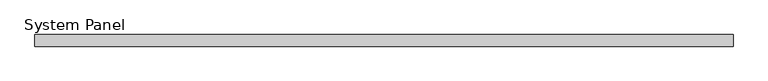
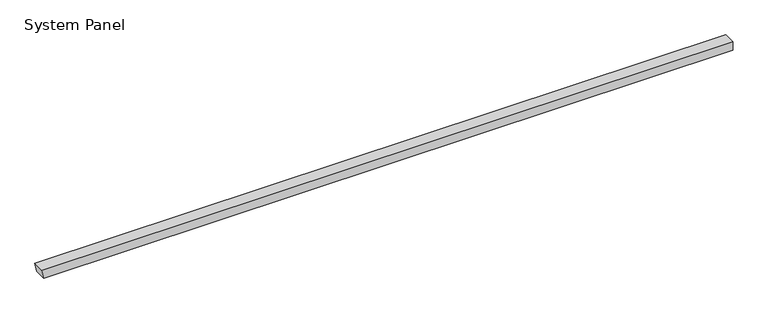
"""IFC4 building model written with IfcOpenShell, lengths in millimetres: plate geometry, System Panel : Equitilt 100mm Horizontal - Plain RHEA - EPS-FR."""

import ifcopenshell
import ifcopenshell.guid

model = None  # the IFC model being written
_history = None  # IfcOwnerHistory: only IFC2X3 demands one
_inside = {}  # id of a spatial element -> (the spatial element, [elements in it])
_under = {}  # id of a project, library or spatial element -> (it, [spatial elements below it])
_declared = {}  # id of a project -> (the project, [libraries it declares])
_typed = {}  # id of a type object -> (the type object, [elements of that type])
_made_of = {}  # id of a material, layer set ... -> (it, [elements and type objects made of it])


def new_model(schema):
    """Start an empty IFC model of exactly this schema.

    Asked for "IFC4X3", IfcOpenShell would pick the latest addendum, in which some entities
    have other attributes; the version numbers below select the first issue.
    IFC2X3 requires an IfcOwnerHistory on every rooted entity: one is made here for all.
    """
    global model, _history
    if schema == "IFC4X3":
        model = ifcopenshell.file(schema_version=(4, 3, 0, 0))
    else:
        model = ifcopenshell.file(schema=schema)
    _inside.clear()
    _under.clear()
    _declared.clear()
    _typed.clear()
    _made_of.clear()
    _history = None
    if model.schema == "IFC2X3":
        org = make("IfcOrganization", Name="unknown")
        user = make(
            "IfcPersonAndOrganization",
            ThePerson=make("IfcPerson", FamilyName="unknown"),
            TheOrganization=org,
        )
        app = make(
            "IfcApplication",
            ApplicationDeveloper=org,
            Version="unknown",
            ApplicationFullName="unknown",
            ApplicationIdentifier="unknown",
        )
        _history = make(
            "IfcOwnerHistory",
            OwningUser=user,
            OwningApplication=app,
            ChangeAction="ADDED",
            CreationDate=0,
        )
    return model


def make(cls, **values):
    """One entity of the class cls with the attributes given. An attribute that is None is left unset."""
    return model.create_entity(
        cls, **{name: value for name, value in values.items() if value is not None}
    )


def rooted(cls, **values):
    """An entity with a GlobalId (a new one), such as an element, a storey or a relation."""
    return make(cls, GlobalId=ifcopenshell.guid.new(), OwnerHistory=_history, **values)


def si_unit(unit_type, name, prefix=None):
    """IfcSIUnit, for example si_unit("LENGTHUNIT", "METRE", prefix="MILLI")."""
    return make("IfcSIUnit", UnitType=unit_type, Prefix=prefix, Name=name)


def assignment(units):
    """IfcUnitAssignment: the units of a project."""
    return None if units is None else make("IfcUnitAssignment", Units=units)


def point(xyz):
    """IfcCartesianPoint."""
    return None if xyz is None else make("IfcCartesianPoint", Coordinates=xyz)


def direction(xyz):
    """IfcDirection."""
    return None if xyz is None else make("IfcDirection", DirectionRatios=xyz)


def frame(location, z_axis=None, x_axis=None):
    """IfcAxis2Placement3D, a coordinate frame: its origin and axes. An axis left out is left unset."""
    return make(
        "IfcAxis2Placement3D",
        Location=point(location),
        Axis=direction(z_axis),
        RefDirection=direction(x_axis),
    )


def origin():
    """The frame at (0, 0, 0) with its axes left unset."""
    return frame((0.0, 0.0, 0.0))


def place(relative_to, where):
    """IfcLocalPlacement: puts the frame where relative to a parent placement (None: the world)."""
    return make(
        "IfcLocalPlacement", PlacementRelTo=relative_to, RelativePlacement=where
    )


def context(
    kind, dimensions, precision=None, world=None, true_north=None, identifier=None
):
    """IfcGeometricRepresentationContext, for example the 3D "Model" context."""
    return make(
        "IfcGeometricRepresentationContext",
        ContextIdentifier=identifier,
        ContextType=kind,
        CoordinateSpaceDimension=dimensions,
        Precision=precision,
        WorldCoordinateSystem=world,
        TrueNorth=true_north,
    )


def project(units=None, contexts=None):
    """IfcProject with its units and contexts."""
    return rooted(
        "IfcProject",
        Name="project",
        RepresentationContexts=contexts,
        UnitsInContext=assignment(units),
    )


def spatial(cls, under=None, at=None, **own):
    """A site, building, storey or space (cls), placed at a placement, below another one or the project."""
    s = rooted(cls, ObjectPlacement=at, **own)
    if under is not None:
        _under.setdefault(under.id(), (under, []))[1].append(s)
    return s


def polyline(points):
    """IfcPolyline through the points."""
    return make("IfcPolyline", Points=[point(p) for p in points])


def outline(outer, holes=None, kind="AREA"):
    """IfcArbitraryClosedProfileDef: a profile drawn as a closed curve; with holes, ...WithVoids."""
    if holes is None:
        return make("IfcArbitraryClosedProfileDef", ProfileType=kind, OuterCurve=outer)
    return make(
        "IfcArbitraryProfileDefWithVoids",
        ProfileType=kind,
        OuterCurve=outer,
        InnerCurves=holes,
    )


def extrude(swept, where, along, depth):
    """IfcExtrudedAreaSolid: the profile swept, set in the frame where, extruded along a direction by depth."""
    return make(
        "IfcExtrudedAreaSolid",
        SweptArea=swept,
        Position=where,
        ExtrudedDirection=direction(along),
        Depth=depth,
    )


def shape(context_of_items, identifier, shape_type, items):
    """IfcShapeRepresentation: the items that make up one representation, for example the "Body"."""
    return make(
        "IfcShapeRepresentation",
        ContextOfItems=context_of_items,
        RepresentationIdentifier=identifier,
        RepresentationType=shape_type,
        Items=items,
    )


def source(mapping_origin, context_of_items, identifier, shape_type, items):
    """IfcRepresentationMap: a shape defined once, which mapped items show again and again."""
    return make(
        "IfcRepresentationMap",
        MappingOrigin=mapping_origin,
        MappedRepresentation=shape(context_of_items, identifier, shape_type, items),
    )


def transform(
    local_origin,
    x_axis=None,
    y_axis=None,
    z_axis=None,
    scale=None,
    scale2=None,
    scale3=None,
    uniform=True,
):
    """IfcCartesianTransformationOperator3D, or its non-uniform kind. x_axis, y_axis, z_axis: its Axis1, 2, 3."""
    if uniform:
        return make(
            "IfcCartesianTransformationOperator3D",
            Axis1=direction(x_axis),
            Axis2=direction(y_axis),
            LocalOrigin=point(local_origin),
            Scale=scale,
            Axis3=direction(z_axis),
        )
    return make(
        "IfcCartesianTransformationOperator3DnonUniform",
        Axis1=direction(x_axis),
        Axis2=direction(y_axis),
        LocalOrigin=point(local_origin),
        Scale=scale,
        Axis3=direction(z_axis),
        Scale2=scale2,
        Scale3=scale3,
    )


def mapped(mapping_source, mapping_target):
    """IfcMappedItem: shows the shape of a source again, moved by a transform."""
    return make(
        "IfcMappedItem", MappingSource=mapping_source, MappingTarget=mapping_target
    )


def made_of(thing, what):
    """Note that an element or type object is made of a material, layer set ...; save() writes the relation."""
    if what is not None:
        _made_of.setdefault(what.id(), (what, []))[1].append(thing)
    return thing


def element(
    cls,
    number,
    at=None,
    inside=None,
    cuts=None,
    type_object=None,
    material=None,
    context=None,
    identifier="Body",
    shape_type=None,
    held_by="IfcProductDefinitionShape",
    body=None,
    shapes=None,
    **own,
):
    """One element of the class cls, such as IfcWall. Its Tag is "e" and its number.

    at: its placement. inside: the storey or other place that contains it. cuts: it is an
    opening in that element (IfcRelVoidsElement). A single representation is given by context,
    identifier, shape_type and body (its items); several are given by shapes. held_by: the class
    of the entity that holds the representations. save() writes the other relations.
    """
    e = rooted(cls, Tag="e%d" % number, ObjectPlacement=at, **own)
    if body is not None:
        shapes = [shape(context, identifier, shape_type, body)]
    if shapes is not None:
        e.Representation = make(held_by, Representations=shapes)
    if inside is not None:
        _inside.setdefault(inside.id(), (inside, []))[1].append(e)
    if cuts is not None:
        rooted(
            "IfcRelVoidsElement", RelatingBuildingElement=cuts, RelatedOpeningElement=e
        )
    if type_object is not None:
        _typed.setdefault(type_object.id(), (type_object, []))[1].append(e)
    return made_of(e, material)


def aggregate(whole, parts):
    """IfcRelAggregates: a whole, such as a stair, and the parts it consists of."""
    return rooted("IfcRelAggregates", RelatingObject=whole, RelatedObjects=parts)


def save(model, path):
    """Write the relations noted so far, then the file.

    IfcRelAggregates (storeys below a building ...), IfcRelContainedInSpatialStructure (elements
    in a storey), IfcRelDefinesByType, IfcRelAssociatesMaterial and IfcRelDeclares: one each for
    every whole, place, type object, material and project.
    """
    for whole, parts in _under.values():
        aggregate(whole, parts)
    for where, things in _inside.values():
        rooted(
            "IfcRelContainedInSpatialStructure",
            RelatedElements=things,
            RelatingStructure=where,
        )
    for kind, things in _typed.values():
        rooted("IfcRelDefinesByType", RelatedObjects=things, RelatingType=kind)
    for what, things in _made_of.values():
        rooted("IfcRelAssociatesMaterial", RelatedObjects=things, RelatingMaterial=what)
    for by, libraries in _declared.values():
        rooted("IfcRelDeclares", RelatingContext=by, RelatedDefinitions=libraries)
    model.write(path)


def system_panel_4db2f891(model_context):
    return source(origin(), model_context, "Body", "SweptSolid", [
        extrude(outline(polyline([(0.0, -2972.6149856), (0.0, 2990.0), (79.9704237, 2990.0), (79.9704237, -2990.0), (0.0, -2972.6149856)])), frame((0.0, -100.0, 0.0), z_axis=(0.0, 1.0, 0.0), x_axis=(0.0, 0.0, 1.0)), (0.0, 0.0, 1.0), 100.0),
    ])


if __name__ == "__main__":
    model = new_model("IFC4")
    model_context = context("Model", 3, world=origin())
    ifc_project = project(units=[si_unit("LENGTHUNIT", "METRE", prefix="MILLI")], contexts=[model_context])
    site = spatial("IfcSite", under=ifc_project)
    building = spatial("IfcBuilding", under=site)
    placement = place(None, origin())
    system_panel_shape = system_panel_4db2f891(model_context)
    element("IfcPlate", 1, ObjectType="System Panel : Equitilt 100mm Horizontal - Plain RHEA - EPS-FR", at=placement, inside=building, context=model_context, shape_type="MappedRepresentation", body=[
        mapped(system_panel_shape, transform((0.0, 0.0, 0.0), x_axis=(1.0, 0.0, 0.0), y_axis=(0.0, 1.0, 0.0), z_axis=(0.0, 0.0, 1.0))),
    ])
    save(model, "model.ifc")
